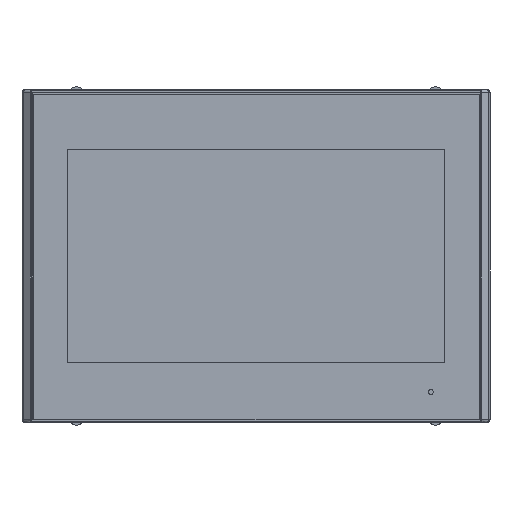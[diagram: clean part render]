
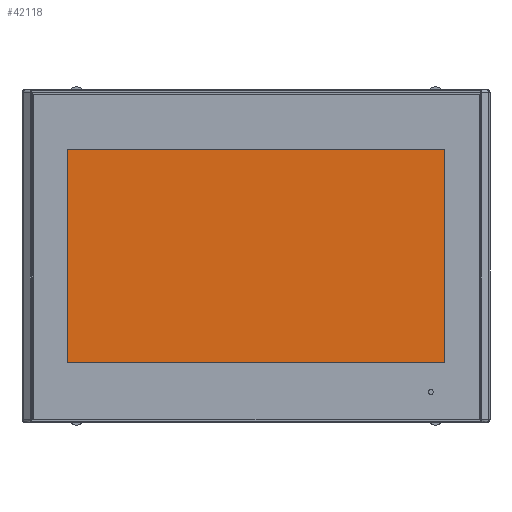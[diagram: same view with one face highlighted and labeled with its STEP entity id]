
A CAD part, top view. The second image highlights one B-rep face of the part: STEP entity #42118.
In plain terms, the highlighted planar face has unit normal (0, 0, 1).
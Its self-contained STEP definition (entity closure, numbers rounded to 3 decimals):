
#2612=DIRECTION('',(-1.,0.,0.));
#2613=VECTOR('',#2612,224.7);
#2614=CARTESIAN_POINT('',(112.35,63.55,5.638));
#2615=LINE('',#2614,#2613);
#2616=DIRECTION('',(0.,1.,0.));
#2617=VECTOR('',#2616,127.1);
#2618=CARTESIAN_POINT('',(112.35,-63.55,5.638));
#2619=LINE('',#2618,#2617);
#2620=DIRECTION('',(1.,0.,0.));
#2621=VECTOR('',#2620,224.7);
#2622=CARTESIAN_POINT('',(-112.35,-63.55,5.638));
#2623=LINE('',#2622,#2621);
#2624=DIRECTION('',(0.,-1.,0.));
#2625=VECTOR('',#2624,127.1);
#2626=CARTESIAN_POINT('',(-112.35,63.55,5.638));
#2627=LINE('',#2626,#2625);
#39632=CARTESIAN_POINT('',(112.35,63.55,5.638));
#39633=CARTESIAN_POINT('',(-112.35,63.55,5.638));
#39634=VERTEX_POINT('',#39632);
#39635=VERTEX_POINT('',#39633);
#39636=CARTESIAN_POINT('',(-112.35,-63.55,5.638));
#39637=VERTEX_POINT('',#39636);
#39638=CARTESIAN_POINT('',(112.35,-63.55,5.638));
#39639=VERTEX_POINT('',#39638);
#42107=CARTESIAN_POINT('',(0.,0.,5.638));
#42108=DIRECTION('',(0.,0.,1.));
#42109=DIRECTION('',(1.,0.,0.));
#42110=AXIS2_PLACEMENT_3D('',#42107,#42108,#42109);
#42111=PLANE('',#42110);
#42112=ORIENTED_EDGE('',*,*,#42059,.F.);
#42113=ORIENTED_EDGE('',*,*,#42074,.F.);
#42114=ORIENTED_EDGE('',*,*,#42088,.F.);
#42115=ORIENTED_EDGE('',*,*,#42101,.F.);
#42116=EDGE_LOOP('',(#42112,#42113,#42114,#42115));
#42117=FACE_OUTER_BOUND('',#42116,.F.);
#42118=ADVANCED_FACE('',(#42117),#42111,.T.);
#42059=EDGE_CURVE('',#39634,#39635,#2615,.T.);
#42074=EDGE_CURVE('',#39639,#39634,#2619,.T.);
#42088=EDGE_CURVE('',#39637,#39639,#2623,.T.);
#42101=EDGE_CURVE('',#39635,#39637,#2627,.T.);
